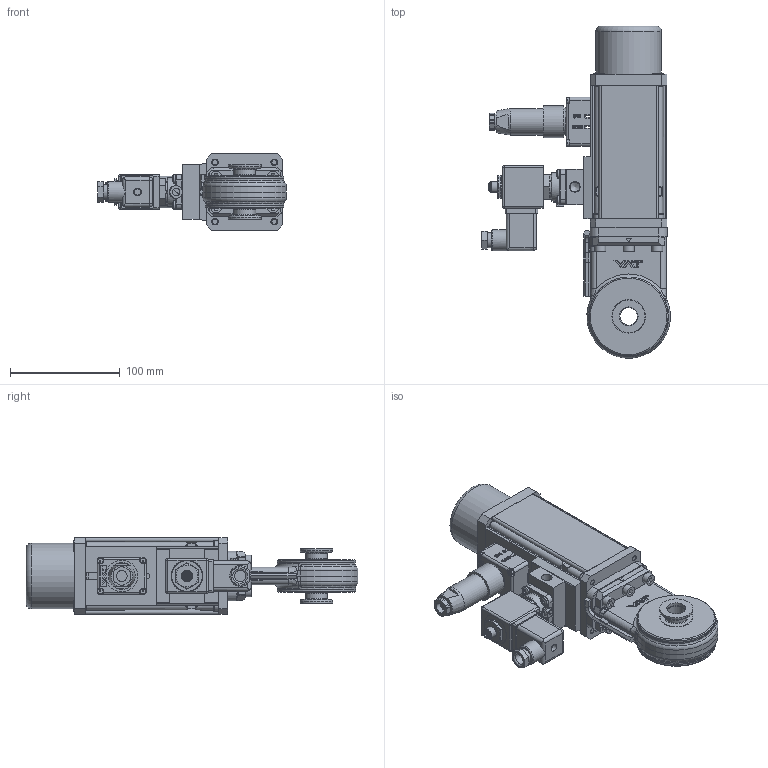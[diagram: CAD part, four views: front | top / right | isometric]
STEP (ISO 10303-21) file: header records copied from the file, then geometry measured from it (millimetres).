
FILE_DESCRIPTION(/* description */ (''),/* implementation_level */ '2;1');
FILE_NAME(/* name */ '1264892354_203.stp',/* time_stamp */ '2013-09-10T11:36:42+02:00',/* author */ (''),/* organization */ (''),/* preprocessor_version */ 'ST-DEVELOPER v11',/* originating_system */ 'SIEMENS PLM Software NX 7.5',/* authorisation */ '');
FILE_SCHEMA (('AP203_CONFIGURATION_CONTROLLED_3D_DESIGN_OF_MECHANICAL_PARTS_AND_ASSEMBLIES_MIM_LF'));
Products named in the file (40): 63150-01_19186ID; 63150-01_19185ID; 63172-01; 69852-01; N-7501-353.1; N-7501-353_2.1; N-7501-353_1.1; N-7501-353_4.2; N-7501-353_3.1; N-7510-101_1.2; N-7510-101.1; 204751.1; 82037-01.2_18991ID; 82037-01.2_18989ID; n-8501-401.1; n-6024-546.1; 73555-01.1; 69672-01; n-8504-002; N-6016-078.1; 69968-01.1; 70687-01.2; 72771-01.1; 70709-01.1; 228772.1; 73280-01_1.1; 63152-01.4; 224809.1; 68156-01.1; 70708-01.1; 70701-01.1; 65209-01.2; 318865_MODEL; 63170-r1_MODEL; 68608-r1.7_MASSBILD; 431183_MASSBILD; N-7501-353_5.1_MODEL; N-7510-101_2.1_NX-ARRAGMNTZUSAMMENST1; n-7500-044.2_NX-ARRAGMNT+ DECKEL; 441391
Assembly tree (61 placements, depth 6):
  441391
    65209-01.2
    70701-01.1
    70708-01.1
    68156-01.1  x4
    224809.1  x4
    63152-01.4
    73280-01_1.1
    228772.1  x6
    70709-01.1
    72771-01.1  x4
    70687-01.2
    69968-01.1
    N-6016-078.1  x4
    n-8504-002
    69672-01
    73555-01.1
    n-6024-546.1  x4
    n-7500-044.2_NX-ARRAGMNT+ DECKEL
      N-7510-101_2.1_NX-ARRAGMNTZUSAMMENST1
        N-7510-101.1
        N-7510-101_1.2
      N-7501-353_5.1_MODEL
        N-7501-353_3.1  x2
        N-7501-353_4.2
        N-7501-353_1.1
        N-7501-353_2.1
        N-7501-353.1
    n-8501-401.1
    431183_MASSBILD
      68608-r1.7_MASSBILD
        63170-r1_MODEL
          318865_MODEL
            63150-01_19185ID
            63150-01_19186ID
        69852-01
        63172-01
    82037-01.2_18989ID
    82037-01.2_18991ID
    204751.1  x2
Bounding box: 172.11 x 302.94 x 70 mm (x, y, z)
Volume: 688909.9 mm3; surface area: 302098 mm2
Topology: 84 solids, 84 shells, 1988 faces, 4686 edges, 3032 vertices
Faces by surface type: plane 1121, cylinder 491, bspline 128, cone 111, extrusion 78, torus 49, sphere 10
Full cylindrical faces by diameter (mm): 1.5 x1, 1.66 x7, 1.95 x4, 2 x2, 2.25 x4, 2.46 x4, 2.5 x8, 2.6 x1, 3 x4, 3.25 x1, 3.3 x4, 3.4 x6, 4 x8, 4.3 x4, 4.375 x4, 4.4 x8, 4.96 x10, 5 x22, 5.8 x1, 5.95 x2, 6 x38, 6.2 x14, 6.475 x4, 6.95 x2, 7 x2, 7.982 x4, 8 x5, 8.2 x4, 8.566 x1, 8.6 x1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
Entity records: 62826 total; most frequent: CARTESIAN_POINT 18585, ORIENTED_EDGE 7188, DIRECTION 6933, EDGE_CURVE 3594, VERTEX_POINT 2521, AXIS2_PLACEMENT_3D 2515, EDGE_LOOP 2232, VECTOR 1903
